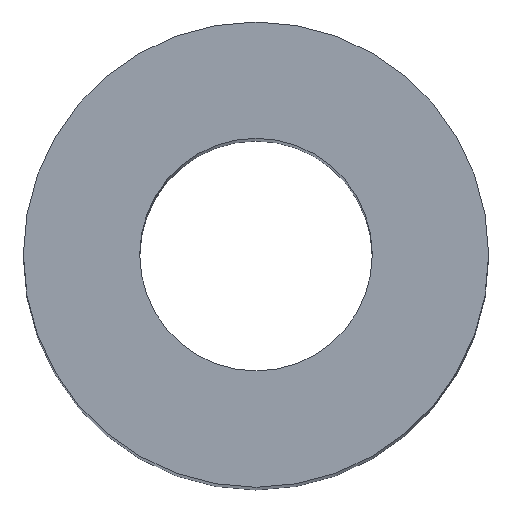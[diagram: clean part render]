
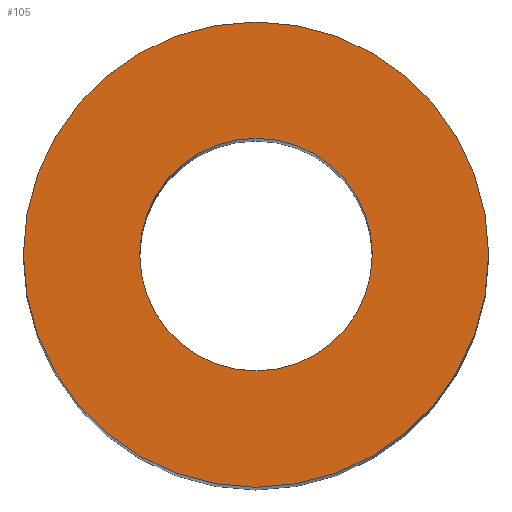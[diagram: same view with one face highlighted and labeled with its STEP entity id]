
A CAD part, top view. The second image highlights one B-rep face of the part: STEP entity #105.
In plain terms, the highlighted planar face has unit normal (0, 0, 1).
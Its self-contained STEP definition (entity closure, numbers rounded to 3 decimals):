
#21 = EDGE_CURVE('',#22,#22,#24,.T.);
#22 = VERTEX_POINT('',#23);
#23 = CARTESIAN_POINT('',(-37.,40.,70.));
#24 = SURFACE_CURVE('',#25,(#30,#42),.PCURVE_S1.);
#25 = CIRCLE('',#26,3.);
#26 = AXIS2_PLACEMENT_3D('',#27,#28,#29);
#27 = CARTESIAN_POINT('',(-40.,40.,70.));
#28 = DIRECTION('',(0.,0.,1.));
#29 = DIRECTION('',(1.,0.,-0.));
#30 = PCURVE('',#31,#36);
#31 = CYLINDRICAL_SURFACE('',#32,3.);
#32 = AXIS2_PLACEMENT_3D('',#33,#34,#35);
#33 = CARTESIAN_POINT('',(-40.,40.,50.));
#34 = DIRECTION('',(0.,0.,1.));
#35 = DIRECTION('',(1.,0.,-0.));
#36 = DEFINITIONAL_REPRESENTATION('',(#37),#41);
#37 = LINE('',#38,#39);
#38 = CARTESIAN_POINT('',(0.,20.));
#39 = VECTOR('',#40,1.);
#40 = DIRECTION('',(1.,0.));
#41 = ( GEOMETRIC_REPRESENTATION_CONTEXT(2) 
PARAMETRIC_REPRESENTATION_CONTEXT() REPRESENTATION_CONTEXT('2D SPACE',''
  ) );
#42 = PCURVE('',#43,#48);
#43 = PLANE('',#44);
#44 = AXIS2_PLACEMENT_3D('',#45,#46,#47);
#45 = CARTESIAN_POINT('',(-40.,40.,70.));
#46 = DIRECTION('',(0.,0.,1.));
#47 = DIRECTION('',(1.,0.,-0.));
#48 = DEFINITIONAL_REPRESENTATION('',(#49),#53);
#49 = CIRCLE('',#50,3.);
#50 = AXIS2_PLACEMENT_2D('',#51,#52);
#51 = CARTESIAN_POINT('',(0.,0.));
#52 = DIRECTION('',(1.,0.));
#53 = ( GEOMETRIC_REPRESENTATION_CONTEXT(2) 
PARAMETRIC_REPRESENTATION_CONTEXT() REPRESENTATION_CONTEXT('2D SPACE',''
  ) );
#105 = ADVANCED_FACE('',(#106,#109),#43,.T.);
#106 = FACE_BOUND('',#107,.T.);
#107 = EDGE_LOOP('',(#108));
#108 = ORIENTED_EDGE('',*,*,#21,.T.);
#109 = FACE_BOUND('',#110,.T.);
#110 = EDGE_LOOP('',(#111));
#111 = ORIENTED_EDGE('',*,*,#112,.F.);
#112 = EDGE_CURVE('',#113,#113,#115,.T.);
#113 = VERTEX_POINT('',#114);
#114 = CARTESIAN_POINT('',(-38.5,40.,70.));
#115 = SURFACE_CURVE('',#116,(#121,#128),.PCURVE_S1.);
#116 = CIRCLE('',#117,1.5);
#117 = AXIS2_PLACEMENT_3D('',#118,#119,#120);
#118 = CARTESIAN_POINT('',(-40.,40.,70.));
#119 = DIRECTION('',(0.,0.,1.));
#120 = DIRECTION('',(1.,0.,-0.));
#121 = PCURVE('',#43,#122);
#122 = DEFINITIONAL_REPRESENTATION('',(#123),#127);
#123 = CIRCLE('',#124,1.5);
#124 = AXIS2_PLACEMENT_2D('',#125,#126);
#125 = CARTESIAN_POINT('',(0.,0.));
#126 = DIRECTION('',(1.,0.));
#127 = ( GEOMETRIC_REPRESENTATION_CONTEXT(2) 
PARAMETRIC_REPRESENTATION_CONTEXT() REPRESENTATION_CONTEXT('2D SPACE',''
  ) );
#128 = PCURVE('',#129,#134);
#129 = CYLINDRICAL_SURFACE('',#130,1.5);
#130 = AXIS2_PLACEMENT_3D('',#131,#132,#133);
#131 = CARTESIAN_POINT('',(-40.,40.,49.));
#132 = DIRECTION('',(0.,0.,1.));
#133 = DIRECTION('',(1.,0.,-0.));
#134 = DEFINITIONAL_REPRESENTATION('',(#135),#139);
#135 = LINE('',#136,#137);
#136 = CARTESIAN_POINT('',(0.,21.));
#137 = VECTOR('',#138,1.);
#138 = DIRECTION('',(1.,0.));
#139 = ( GEOMETRIC_REPRESENTATION_CONTEXT(2) 
PARAMETRIC_REPRESENTATION_CONTEXT() REPRESENTATION_CONTEXT('2D SPACE',''
  ) );
